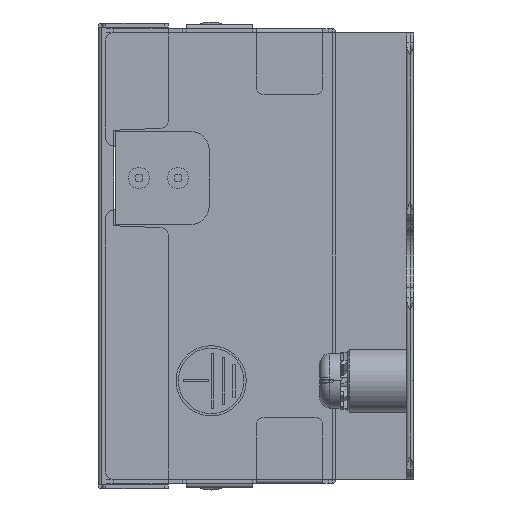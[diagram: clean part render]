
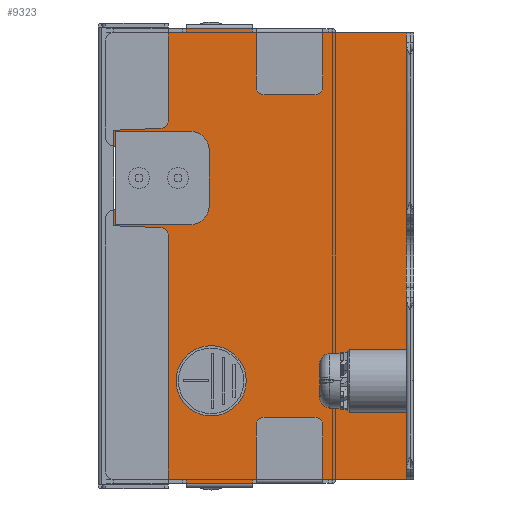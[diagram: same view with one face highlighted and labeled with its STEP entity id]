
A CAD part, left-side view. The second image highlights one B-rep face of the part: STEP entity #9323.
In plain terms, the highlighted planar face has unit normal (-1, 0, 0).
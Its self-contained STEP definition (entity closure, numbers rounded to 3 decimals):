
#103=DIRECTION('',(0.,1.,0.));
#104=VECTOR('',#103,8.5);
#105=CARTESIAN_POINT('',(-124.95,10.7,-29.15));
#106=LINE('',#105,#104);
#260=CARTESIAN_POINT('',(-124.95,16.,-16.));
#261=DIRECTION('',(-1.,0.,0.));
#262=DIRECTION('',(0.,0.,1.));
#263=AXIS2_PLACEMENT_3D('',#260,#261,#262);
#268=CARTESIAN_POINT('',(-124.95,16.,-16.));
#269=DIRECTION('',(-1.,0.,0.));
#270=DIRECTION('',(0.,0.,-1.));
#271=AXIS2_PLACEMENT_3D('',#268,#269,#270);
#276=CARTESIAN_POINT('',(-124.95,24.1,6.889));
#277=DIRECTION('',(-1.,0.,0.));
#278=DIRECTION('',(0.,-1.,0.));
#279=AXIS2_PLACEMENT_3D('',#276,#277,#278);
#284=DIRECTION('',(0.,0.,1.));
#285=VECTOR('',#284,0.039);
#286=CARTESIAN_POINT('',(-124.95,23.9,6.85));
#287=LINE('',#286,#285);
#291=DIRECTION('',(0.,1.,0.));
#292=VECTOR('',#291,5.65);
#293=CARTESIAN_POINT('',(-124.95,18.25,6.85));
#294=LINE('',#293,#292);
#298=DIRECTION('',(0.,0.,-1.));
#299=VECTOR('',#298,6.3);
#300=CARTESIAN_POINT('',(-124.95,18.25,13.15));
#301=LINE('',#300,#299);
#305=DIRECTION('',(0.,-1.,0.));
#306=VECTOR('',#305,5.65);
#307=CARTESIAN_POINT('',(-124.95,23.9,13.15));
#308=LINE('',#307,#306);
#312=DIRECTION('',(0.,0.,1.));
#313=VECTOR('',#312,0.039);
#314=CARTESIAN_POINT('',(-124.95,23.9,13.111));
#315=LINE('',#314,#313);
#319=CARTESIAN_POINT('',(-124.95,24.1,13.111));
#320=DIRECTION('',(-1.,0.,0.));
#321=DIRECTION('',(0.,0.259,-0.966));
#322=AXIS2_PLACEMENT_3D('',#319,#320,#321);
#327=DIRECTION('',(0.,-0.966,-0.259));
#328=VECTOR('',#327,4.77);
#329=CARTESIAN_POINT('',(-124.95,28.759,14.152));
#330=LINE('',#329,#328);
#334=CARTESIAN_POINT('',(-124.95,28.5,15.118));
#335=DIRECTION('',(-1.,0.,0.));
#336=DIRECTION('',(0.,1.,0.));
#337=AXIS2_PLACEMENT_3D('',#334,#335,#336);
#342=DIRECTION('',(0.,0.,1.));
#343=VECTOR('',#342,12.532);
#344=CARTESIAN_POINT('',(-124.95,29.5,15.118));
#345=LINE('',#344,#343);
#349=CARTESIAN_POINT('',(-124.95,28.5,27.65));
#350=DIRECTION('',(-1.,0.,0.));
#351=DIRECTION('',(0.,0.,1.));
#352=AXIS2_PLACEMENT_3D('',#349,#350,#351);
#357=DIRECTION('',(0.,0.,-1.));
#358=VECTOR('',#357,0.5);
#359=CARTESIAN_POINT('',(-124.95,19.2,29.15));
#360=LINE('',#359,#358);
#364=DIRECTION('',(0.,0.,1.));
#365=VECTOR('',#364,0.5);
#366=CARTESIAN_POINT('',(-124.95,10.7,28.65));
#367=LINE('',#366,#365);
#371=DIRECTION('',(0.,0.,-1.));
#372=VECTOR('',#371,57.3);
#373=CARTESIAN_POINT('',(-124.95,-9.,28.65));
#374=LINE('',#373,#372);
#378=DIRECTION('',(0.,0.,1.));
#379=VECTOR('',#378,0.5);
#380=CARTESIAN_POINT('',(-124.95,10.7,-29.15));
#381=LINE('',#380,#379);
#385=DIRECTION('',(0.,0.,-1.));
#386=VECTOR('',#385,0.5);
#387=CARTESIAN_POINT('',(-124.95,19.2,-28.65));
#388=LINE('',#387,#386);
#392=CARTESIAN_POINT('',(-124.95,28.5,-27.65));
#393=DIRECTION('',(-1.,0.,0.));
#394=DIRECTION('',(0.,1.,0.));
#395=AXIS2_PLACEMENT_3D('',#392,#393,#394);
#400=DIRECTION('',(0.,0.,1.));
#401=VECTOR('',#400,32.532);
#402=CARTESIAN_POINT('',(-124.95,29.5,-27.65));
#403=LINE('',#402,#401);
#407=CARTESIAN_POINT('',(-124.95,28.5,4.882));
#408=DIRECTION('',(-1.,0.,0.));
#409=DIRECTION('',(0.,0.259,0.966));
#410=AXIS2_PLACEMENT_3D('',#407,#408,#409);
#415=DIRECTION('',(0.,0.966,-0.259));
#416=VECTOR('',#415,4.77);
#417=CARTESIAN_POINT('',(-124.95,24.152,7.083));
#418=LINE('',#417,#416);
#880=DIRECTION('',(0.,-1.,0.));
#881=VECTOR('',#880,9.3);
#882=CARTESIAN_POINT('',(-124.95,28.5,-28.65));
#883=LINE('',#882,#881);
#966=DIRECTION('',(0.,-1.,0.));
#967=VECTOR('',#966,19.7);
#968=CARTESIAN_POINT('',(-124.95,10.7,-28.65));
#969=LINE('',#968,#967);
#7471=DIRECTION('',(0.,1.,0.));
#7472=VECTOR('',#7471,19.7);
#7473=CARTESIAN_POINT('',(-124.95,-9.,28.65));
#7474=LINE('',#7473,#7472);
#7528=DIRECTION('',(0.,-1.,0.));
#7529=VECTOR('',#7528,8.5);
#7530=CARTESIAN_POINT('',(-124.95,19.2,29.15));
#7531=LINE('',#7530,#7529);
#7636=DIRECTION('',(0.,1.,0.));
#7637=VECTOR('',#7636,9.3);
#7638=CARTESIAN_POINT('',(-124.95,19.2,28.65));
#7639=LINE('',#7638,#7637);
#7846=CARTESIAN_POINT('',(-124.95,-9.,-28.65));
#7847=VERTEX_POINT('',#7846);
#7848=CARTESIAN_POINT('',(-124.95,-9.,28.65));
#7849=VERTEX_POINT('',#7848);
#7978=CARTESIAN_POINT('',(-124.95,19.2,-28.65));
#7979=CARTESIAN_POINT('',(-124.95,19.2,-29.15));
#7980=VERTEX_POINT('',#7978);
#7981=VERTEX_POINT('',#7979);
#7982=CARTESIAN_POINT('',(-124.95,10.7,-29.15));
#7983=CARTESIAN_POINT('',(-124.95,10.7,-28.65));
#7984=VERTEX_POINT('',#7982);
#7985=VERTEX_POINT('',#7983);
#7994=CARTESIAN_POINT('',(-124.95,10.7,28.65));
#7995=CARTESIAN_POINT('',(-124.95,10.7,29.15));
#7996=VERTEX_POINT('',#7994);
#7997=VERTEX_POINT('',#7995);
#7998=CARTESIAN_POINT('',(-124.95,19.2,29.15));
#7999=CARTESIAN_POINT('',(-124.95,19.2,28.65));
#8000=VERTEX_POINT('',#7998);
#8001=VERTEX_POINT('',#7999);
#8030=CARTESIAN_POINT('',(-124.95,29.5,-27.65));
#8031=VERTEX_POINT('',#8030);
#8032=CARTESIAN_POINT('',(-124.95,28.5,-28.65));
#8033=VERTEX_POINT('',#8032);
#8046=CARTESIAN_POINT('',(-124.95,28.5,28.65));
#8047=VERTEX_POINT('',#8046);
#8048=CARTESIAN_POINT('',(-124.95,29.5,27.65));
#8049=VERTEX_POINT('',#8048);
#8570=CARTESIAN_POINT('',(-124.95,16.,-11.5));
#8571=CARTESIAN_POINT('',(-124.95,16.,-20.5));
#8572=VERTEX_POINT('',#8570);
#8573=VERTEX_POINT('',#8571);
#8626=CARTESIAN_POINT('',(-124.95,23.9,13.15));
#8627=CARTESIAN_POINT('',(-124.95,18.25,13.15));
#8628=VERTEX_POINT('',#8626);
#8629=VERTEX_POINT('',#8627);
#8630=CARTESIAN_POINT('',(-124.95,18.25,6.85));
#8631=VERTEX_POINT('',#8630);
#8632=CARTESIAN_POINT('',(-124.95,23.9,6.85));
#8633=VERTEX_POINT('',#8632);
#8784=CARTESIAN_POINT('',(-124.95,28.759,5.848));
#8785=CARTESIAN_POINT('',(-124.95,29.5,4.882));
#8786=VERTEX_POINT('',#8784);
#8787=VERTEX_POINT('',#8785);
#8792=CARTESIAN_POINT('',(-124.95,29.5,15.118));
#8793=CARTESIAN_POINT('',(-124.95,28.759,14.152));
#8794=VERTEX_POINT('',#8792);
#8795=VERTEX_POINT('',#8793);
#8990=CARTESIAN_POINT('',(-124.95,23.9,6.889));
#8991=CARTESIAN_POINT('',(-124.95,24.152,7.083));
#8992=VERTEX_POINT('',#8990);
#8993=VERTEX_POINT('',#8991);
#8998=CARTESIAN_POINT('',(-124.95,24.152,12.917));
#8999=CARTESIAN_POINT('',(-124.95,23.9,13.111));
#9000=VERTEX_POINT('',#8998);
#9001=VERTEX_POINT('',#8999);
#9260=CARTESIAN_POINT('',(-124.95,-9.5,-28.65));
#9261=DIRECTION('',(1.,0.,0.));
#9262=DIRECTION('',(0.,0.,-1.));
#9263=AXIS2_PLACEMENT_3D('',#9260,#9261,#9262);
#9264=PLANE('',#9263);
#9266=ORIENTED_EDGE('',*,*,#9265,.F.);
#9268=ORIENTED_EDGE('',*,*,#9267,.F.);
#9270=ORIENTED_EDGE('',*,*,#9269,.F.);
#9272=ORIENTED_EDGE('',*,*,#9271,.F.);
#9274=ORIENTED_EDGE('',*,*,#9273,.F.);
#9276=ORIENTED_EDGE('',*,*,#9275,.F.);
#9278=ORIENTED_EDGE('',*,*,#9277,.F.);
#9280=ORIENTED_EDGE('',*,*,#9279,.F.);
#9282=ORIENTED_EDGE('',*,*,#9281,.F.);
#9284=ORIENTED_EDGE('',*,*,#9283,.T.);
#9286=ORIENTED_EDGE('',*,*,#9285,.F.);
#9288=ORIENTED_EDGE('',*,*,#9287,.F.);
#9290=ORIENTED_EDGE('',*,*,#9289,.F.);
#9292=ORIENTED_EDGE('',*,*,#9291,.T.);
#9294=ORIENTED_EDGE('',*,*,#9293,.F.);
#9296=ORIENTED_EDGE('',*,*,#9295,.F.);
#9298=ORIENTED_EDGE('',*,*,#9297,.T.);
#9300=ORIENTED_EDGE('',*,*,#9299,.F.);
#9302=ORIENTED_EDGE('',*,*,#9301,.F.);
#9303=ORIENTED_EDGE('',*,*,#9146,.T.);
#9304=ORIENTED_EDGE('',*,*,#9184,.F.);
#9306=ORIENTED_EDGE('',*,*,#9305,.F.);
#9308=ORIENTED_EDGE('',*,*,#9307,.F.);
#9310=ORIENTED_EDGE('',*,*,#9309,.T.);
#9312=ORIENTED_EDGE('',*,*,#9311,.F.);
#9314=ORIENTED_EDGE('',*,*,#9313,.F.);
#9315=EDGE_LOOP('',(#9266,#9268,#9270,#9272,#9274,#9276,#9278,#9280,#9282,#9284,
#9286,#9288,#9290,#9292,#9294,#9296,#9298,#9300,#9302,#9303,#9304,#9306,#9308,
#9310,#9312,#9314));
#9316=FACE_OUTER_BOUND('',#9315,.F.);
#9318=ORIENTED_EDGE('',*,*,#9317,.T.);
#9320=ORIENTED_EDGE('',*,*,#9319,.T.);
#9321=EDGE_LOOP('',(#9318,#9320));
#9322=FACE_BOUND('',#9321,.F.);
#9323=ADVANCED_FACE('',(#9316,#9322),#9264,.F.);
#264=CIRCLE('',#263,4.5);
#272=CIRCLE('',#271,4.5);
#280=CIRCLE('',#279,0.2);
#323=CIRCLE('',#322,0.2);
#338=CIRCLE('',#337,1.);
#353=CIRCLE('',#352,1.);
#396=CIRCLE('',#395,1.);
#411=CIRCLE('',#410,1.);
#9146=EDGE_CURVE('',#7984,#7981,#106,.T.);
#9184=EDGE_CURVE('',#7980,#7981,#388,.T.);
#9265=EDGE_CURVE('',#8992,#8993,#280,.T.);
#9267=EDGE_CURVE('',#8633,#8992,#287,.T.);
#9269=EDGE_CURVE('',#8631,#8633,#294,.T.);
#9271=EDGE_CURVE('',#8629,#8631,#301,.T.);
#9273=EDGE_CURVE('',#8628,#8629,#308,.T.);
#9275=EDGE_CURVE('',#9001,#8628,#315,.T.);
#9277=EDGE_CURVE('',#9000,#9001,#323,.T.);
#9279=EDGE_CURVE('',#8795,#9000,#330,.T.);
#9281=EDGE_CURVE('',#8794,#8795,#338,.T.);
#9283=EDGE_CURVE('',#8794,#8049,#345,.T.);
#9285=EDGE_CURVE('',#8047,#8049,#353,.T.);
#9287=EDGE_CURVE('',#8001,#8047,#7639,.T.);
#9289=EDGE_CURVE('',#8000,#8001,#360,.T.);
#9291=EDGE_CURVE('',#8000,#7997,#7531,.T.);
#9293=EDGE_CURVE('',#7996,#7997,#367,.T.);
#9295=EDGE_CURVE('',#7849,#7996,#7474,.T.);
#9297=EDGE_CURVE('',#7849,#7847,#374,.T.);
#9299=EDGE_CURVE('',#7985,#7847,#969,.T.);
#9301=EDGE_CURVE('',#7984,#7985,#381,.T.);
#9305=EDGE_CURVE('',#8033,#7980,#883,.T.);
#9307=EDGE_CURVE('',#8031,#8033,#396,.T.);
#9309=EDGE_CURVE('',#8031,#8787,#403,.T.);
#9311=EDGE_CURVE('',#8786,#8787,#411,.T.);
#9313=EDGE_CURVE('',#8993,#8786,#418,.T.);
#9317=EDGE_CURVE('',#8572,#8573,#264,.T.);
#9319=EDGE_CURVE('',#8573,#8572,#272,.T.);
